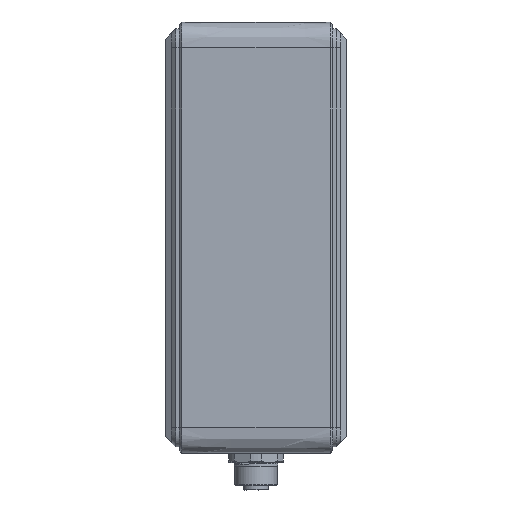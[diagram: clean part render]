
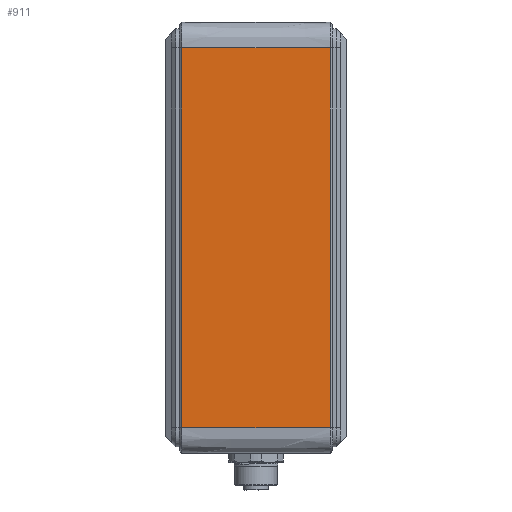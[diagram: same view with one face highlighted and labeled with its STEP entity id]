
A CAD part, left-side view. The second image highlights one B-rep face of the part: STEP entity #911.
In plain terms, the highlighted planar face has unit normal (-1, 0, 0).
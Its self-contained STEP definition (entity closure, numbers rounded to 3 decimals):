
#911=ADVANCED_FACE('',(#1616),#11515,.T.);
#1616=FACE_OUTER_BOUND('',#2357,.T.);
#2357=EDGE_LOOP('',(#3532,#3533,#3534,#3535));
#3532=ORIENTED_EDGE('',*,*,#6757,.F.);
#3533=ORIENTED_EDGE('',*,*,#6758,.F.);
#3534=ORIENTED_EDGE('',*,*,#6759,.F.);
#3535=ORIENTED_EDGE('',*,*,#6756,.F.);
#6756=EDGE_CURVE('',#10369,#10370,#8436,.T.);
#6757=EDGE_CURVE('',#10371,#10369,#8437,.T.);
#6758=EDGE_CURVE('',#10372,#10371,#8438,.T.);
#6759=EDGE_CURVE('',#10370,#10372,#8439,.T.);
#8436=B_SPLINE_CURVE_WITH_KNOTS('',3,(#25089,#25090,#25091,#25092),
 .UNSPECIFIED.,.F.,.F.,(4,4),(-46.4,0.),.UNSPECIFIED.);
#8437=B_SPLINE_CURVE_WITH_KNOTS('',1,(#25093,#25094),.UNSPECIFIED.,.F.,
 .F.,(2,2),(-119.,0.),.UNSPECIFIED.);
#8438=B_SPLINE_CURVE_WITH_KNOTS('',3,(#25095,#25096,#25097,#25098),
 .UNSPECIFIED.,.F.,.F.,(4,4),(-46.4,0.),.UNSPECIFIED.);
#8439=B_SPLINE_CURVE_WITH_KNOTS('',1,(#25099,#25100),.UNSPECIFIED.,.F.,
 .F.,(2,2),(-119.,0.),.UNSPECIFIED.);
#10369=VERTEX_POINT('',#22630);
#10370=VERTEX_POINT('',#22631);
#10371=VERTEX_POINT('',#22632);
#10372=VERTEX_POINT('',#22633);
#11515=PLANE('',#11953);
#11953=AXIS2_PLACEMENT_3D('',#13127,#12417,$);
#12417=DIRECTION('',(-1.,0.,0.));
#13127=CARTESIAN_POINT('',(-125.,-1.34,71.4));
#22630=CARTESIAN_POINT('',(-125.,3.3,-59.5));
#22631=CARTESIAN_POINT('',(-125.,49.7,-59.5));
#22632=CARTESIAN_POINT('',(-125.,3.3,59.5));
#22633=CARTESIAN_POINT('',(-125.,49.7,59.5));
#25089=CARTESIAN_POINT('',(-125.,3.3,-59.5));
#25090=CARTESIAN_POINT('',(-125.,18.767,-59.5));
#25091=CARTESIAN_POINT('',(-125.,34.233,-59.5));
#25092=CARTESIAN_POINT('',(-125.,49.7,-59.5));
#25093=CARTESIAN_POINT('',(-125.,3.3,59.5));
#25094=CARTESIAN_POINT('',(-125.,3.3,-59.5));
#25095=CARTESIAN_POINT('',(-125.,49.7,59.5));
#25096=CARTESIAN_POINT('',(-125.,34.233,59.5));
#25097=CARTESIAN_POINT('',(-125.,18.767,59.5));
#25098=CARTESIAN_POINT('',(-125.,3.3,59.5));
#25099=CARTESIAN_POINT('',(-125.,49.7,-59.5));
#25100=CARTESIAN_POINT('',(-125.,49.7,59.5));
